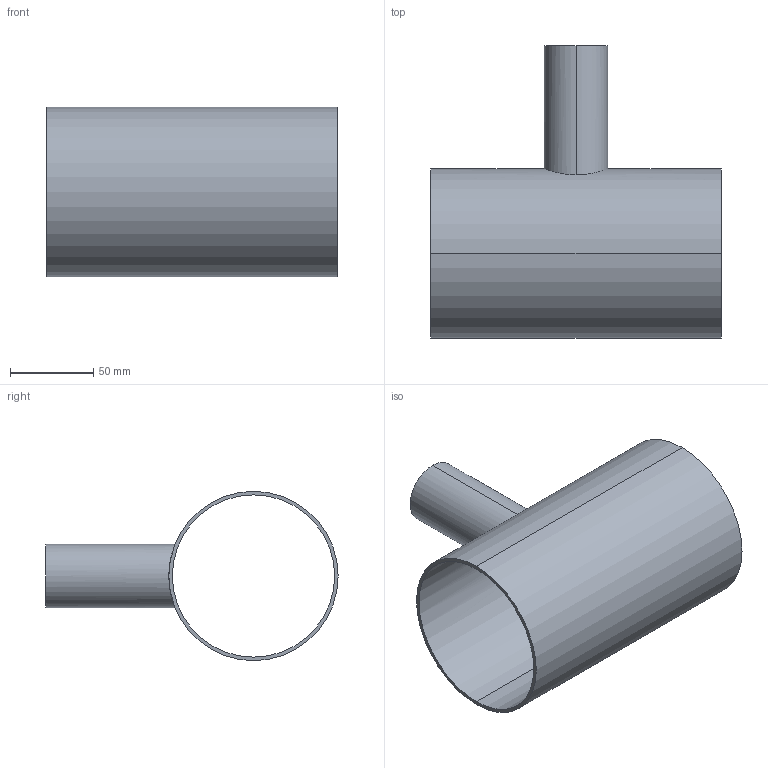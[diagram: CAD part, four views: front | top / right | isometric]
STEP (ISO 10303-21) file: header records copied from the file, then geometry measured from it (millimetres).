
FILE_DESCRIPTION (( 'STEP AP203' ), '1' );
FILE_NAME ('E7RWWW4.0X1.5.STEP', '2018-04-30T18:54:12', ( 'vneprd' ), ( 'Microsoft' ), 'SwSTEP 2.0', 'SolidWorks 2014', '' );
FILE_SCHEMA (( 'CONFIG_CONTROL_DESIGN' ));
Length unit declared in the file: inch
Products named in the file (1): E7RWWW4.0X1.5
Bounding box: 174.62 x 175.41 x 101.6 mm (x, y, z)
Volume: 127302.9 mm3; surface area: 126070 mm2
Topology: 1 solids, 1 shells, 11 faces, 24 edges, 16 vertices
Faces by surface type: cylinder 8, plane 3
Entity records: 599 total; most frequent: CARTESIAN_POINT 262, DIRECTION 56, ORIENTED_EDGE 48, AXIS2_PLACEMENT_3D 24, EDGE_CURVE 24, EDGE_LOOP 16, VERTEX_POINT 16, CIRCLE 12
